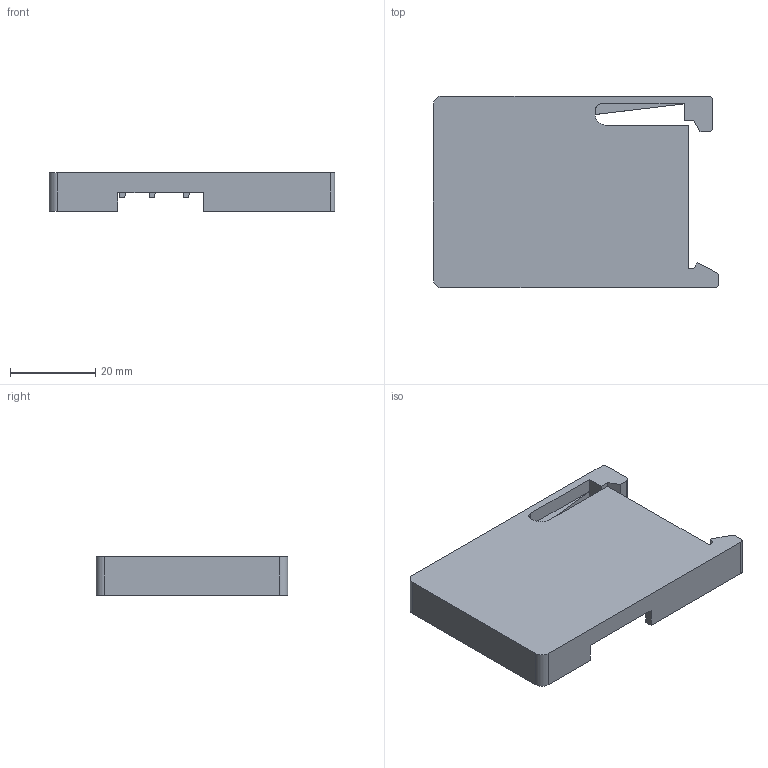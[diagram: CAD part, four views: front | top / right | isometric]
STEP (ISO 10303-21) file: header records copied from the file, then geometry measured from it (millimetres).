
FILE_DESCRIPTION (( 'STEP AP214' ), '1' );
FILE_NAME ('ôàëüøìîäóëü.STEP', '2015-10-01T12:57:28', ( '' ), ( '' ), 'SwSTEP 2.0', 'SolidWorks 2012', '' );
FILE_SCHEMA (( 'AUTOMOTIVE_DESIGN' ));
Length unit declared in the file: millimetre
Products named in the file (1): ôàëüøìîäóëü
Bounding box: 67 x 45 x 9 mm (x, y, z)
Volume: 8972.9 mm3; surface area: 10646 mm2
Topology: 1 solids, 1 shells, 95 faces, 250 edges, 164 vertices
Faces by surface type: plane 85, cylinder 10
Entity records: 2914 total; most frequent: CARTESIAN_POINT 510, ORIENTED_EDGE 500, DIRECTION 462, EDGE_CURVE 250, LINE 230, VECTOR 230, VERTEX_POINT 164, AXIS2_PLACEMENT_3D 116
